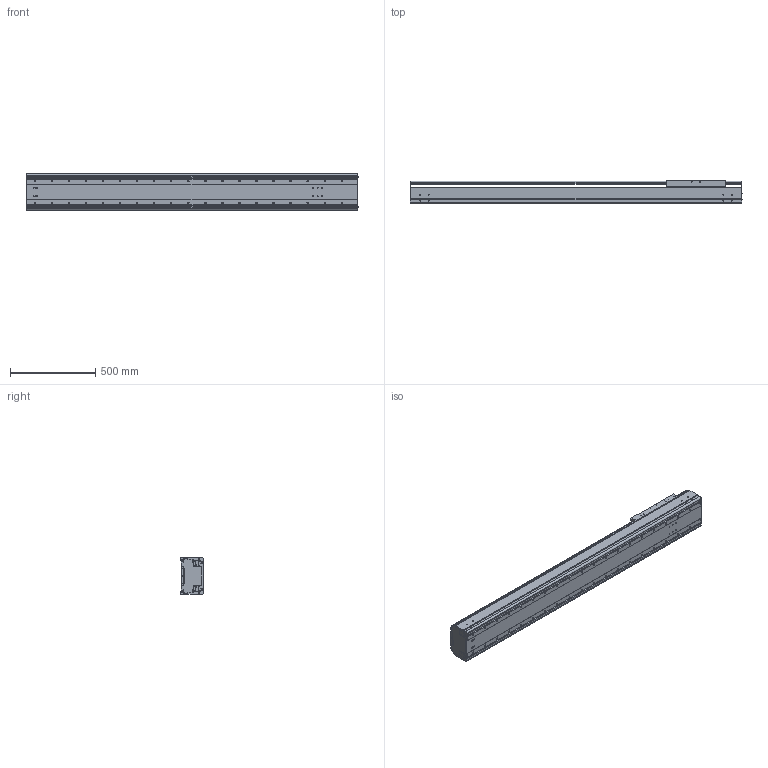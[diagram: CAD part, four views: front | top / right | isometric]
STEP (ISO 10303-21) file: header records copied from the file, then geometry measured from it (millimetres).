
FILE_DESCRIPTION((''),'2;1');
FILE_NAME('BE60G-ST-L_B-E5_IGS_PRT','2017-06-18T',(' '),(''),'PRO/ENGINEER BY PARAMETRIC TECHNOLOGY CORPORATION, 2015030','PRO/ENGINEER BY PARAMETRIC TECHNOLOGY CORPORATION, 2015030','');
FILE_SCHEMA(('CONFIG_CONTROL_DESIGN'));
Products named in the file (1): BE60G-ST-L_B-E5_IGS_PRT
Bounding box: 1947.4 x 140 x 214 mm (x, y, z)
Volume: 15616732.1 mm3; surface area: 4118468.1 mm2
Topology: 2 solids, 172 shells, 1746 faces, 4902 edges, 3220 vertices
Faces by surface type: cylinder 920, plane 642, cone 136, sphere 24, torus 24
Entity records: 58546 total; most frequent: CARTESIAN_POINT 13500, DIRECTION 9446, ORIENTED_EDGE 8860, EDGE_CURVE 4766, AXIS2_PLACEMENT_3D 3553, VERTEX_POINT 3218, VECTOR 2340, LINE 2340
